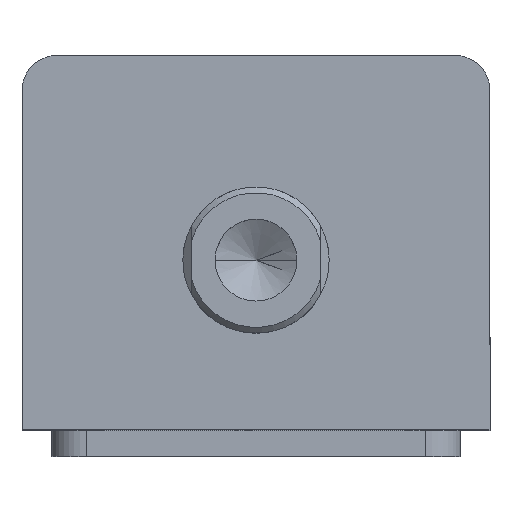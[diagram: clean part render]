
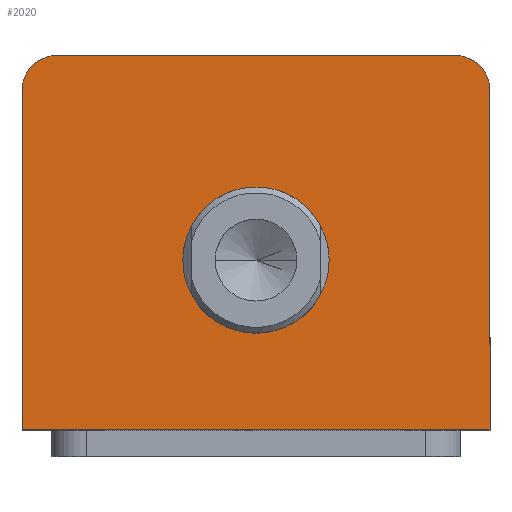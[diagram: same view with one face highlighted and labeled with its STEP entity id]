
A CAD part, top view. The second image highlights one B-rep face of the part: STEP entity #2020.
In plain terms, the highlighted planar face has unit normal (0, 0, 1).
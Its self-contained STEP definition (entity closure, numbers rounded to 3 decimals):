
#249 = DIRECTION ( 'NONE',  ( 0., -1., 0. ) ) ;
#261 = CARTESIAN_POINT ( 'NONE',  ( -40., 32., 100. ) ) ;
#295 = DIRECTION ( 'NONE',  ( 1., 0., 0. ) ) ;
#323 = CARTESIAN_POINT ( 'NONE',  ( -40., -32., 100. ) ) ;
#410 = DIRECTION ( 'NONE',  ( 1., 0., 0. ) ) ;
#411 = DIRECTION ( 'NONE',  ( 0., 0., 1. ) ) ;
#412 = CARTESIAN_POINT ( 'NONE',  ( 0., -3., 100. ) ) ;
#441 = DIRECTION ( 'NONE',  ( 0., 1., 0. ) ) ;
#442 = CARTESIAN_POINT ( 'NONE',  ( 40., 32., 100. ) ) ;
#601 = ORIENTED_EDGE ( 'NONE', *, *, #1379, .T. ) ;
#606 = ORIENTED_EDGE ( 'NONE', *, *, #1632, .T. ) ;
#607 = ORIENTED_EDGE ( 'NONE', *, *, #1387, .T. ) ;
#608 = ORIENTED_EDGE ( 'NONE', *, *, #1582, .F. ) ;
#609 = ORIENTED_EDGE ( 'NONE', *, *, #1522, .F. ) ;
#610 = ORIENTED_EDGE ( 'NONE', *, *, #1560, .T. ) ;
#611 = ORIENTED_EDGE ( 'NONE', *, *, #1550, .T. ) ;
#612 = ORIENTED_EDGE ( 'NONE', *, *, #1572, .T. ) ;
#788 = VERTEX_POINT ( 'NONE', #2928 ) ;
#791 = VERTEX_POINT ( 'NONE', #3002 ) ;
#793 = VERTEX_POINT ( 'NONE', #2677 ) ;
#796 = VERTEX_POINT ( 'NONE', #2926 ) ;
#799 = VERTEX_POINT ( 'NONE', #2998 ) ;
#824 = VERTEX_POINT ( 'NONE', #2955 ) ;
#843 = VERTEX_POINT ( 'NONE', #2922 ) ;
#846 = VERTEX_POINT ( 'NONE', #2919 ) ;
#954 = EDGE_LOOP ( 'NONE', ( #608, #609 ) ) ;
#1011 = EDGE_LOOP ( 'NONE', ( #606, #607, #610, #611, #612, #601 ) ) ;
#1127 = FACE_BOUND ( 'NONE', #954, .T. ) ;
#1131 = FACE_OUTER_BOUND ( 'NONE', #1011, .T. ) ;
#1379 = EDGE_CURVE ( 'NONE', #824, #788, #2203, .T. ) ;
#1387 = EDGE_CURVE ( 'NONE', #791, #793, #2207, .T. ) ;
#1412 = AXIS2_PLACEMENT_3D ( 'NONE', #2799, #2798, #2822 ) ;
#1522 = EDGE_CURVE ( 'NONE', #846, #843, #2375, .T. ) ;
#1550 = EDGE_CURVE ( 'NONE', #799, #796, #2413, .T. ) ;
#1560 = EDGE_CURVE ( 'NONE', #793, #799, #2425, .T. ) ;
#1572 = EDGE_CURVE ( 'NONE', #796, #824, #2461, .T. ) ;
#1582 = EDGE_CURVE ( 'NONE', #843, #846, #2480, .T. ) ;
#1632 = EDGE_CURVE ( 'NONE', #788, #791, #2559, .T. ) ;
#1780 = CARTESIAN_POINT ( 'NONE',  ( 0., 0., 100. ) ) ;
#1781 = DIRECTION ( 'NONE',  ( 1., 0., 0. ) ) ;
#1782 = DIRECTION ( 'NONE',  ( 0., 0., 1. ) ) ;
#1791 = PLANE ( 'NONE',  #2649 ) ;
#2020 = ADVANCED_FACE ( 'NONE', ( #1127, #1131 ), #1791, .T. ) ;
#2203 = CIRCLE ( 'NONE', #1412, 6. ) ;
#2207 = CIRCLE ( 'NONE', #3009, 6. ) ;
#2375 = CIRCLE ( 'NONE', #3561, 12.5 ) ;
#2413 = LINE ( 'NONE', #323, #2420 ) ;
#2420 = VECTOR ( 'NONE', #295, 1000. ) ;
#2425 = LINE ( 'NONE', #261, #2440 ) ;
#2440 = VECTOR ( 'NONE', #249, 1000. ) ;
#2461 = LINE ( 'NONE', #442, #2464 ) ;
#2464 = VECTOR ( 'NONE', #441, 1000. ) ;
#2480 = CIRCLE ( 'NONE', #3049, 12.5 ) ;
#2559 = LINE ( 'NONE', #3245, #2562 ) ;
#2562 = VECTOR ( 'NONE', #3273, 1000. ) ;
#2649 = AXIS2_PLACEMENT_3D ( 'NONE', #1780, #1782, #1781 ) ;
#2677 = CARTESIAN_POINT ( 'NONE',  ( -40., 26., 100. ) ) ;
#2738 = DIRECTION ( 'NONE',  ( 1., 0., 0. ) ) ;
#2739 = CARTESIAN_POINT ( 'NONE',  ( -34., 26., 100. ) ) ;
#2740 = DIRECTION ( 'NONE',  ( 0., 0., 1. ) ) ;
#2798 = DIRECTION ( 'NONE',  ( 0., 0., 1. ) ) ;
#2799 = CARTESIAN_POINT ( 'NONE',  ( 34., 26., 100. ) ) ;
#2822 = DIRECTION ( 'NONE',  ( 1., 0., 0. ) ) ;
#2919 = CARTESIAN_POINT ( 'NONE',  ( -12.5, -3., 100. ) ) ;
#2922 = CARTESIAN_POINT ( 'NONE',  ( 12.5, -3., 100. ) ) ;
#2926 = CARTESIAN_POINT ( 'NONE',  ( 40., -32., 100. ) ) ;
#2928 = CARTESIAN_POINT ( 'NONE',  ( 34., 32., 100. ) ) ;
#2955 = CARTESIAN_POINT ( 'NONE',  ( 40., 26., 100. ) ) ;
#2998 = CARTESIAN_POINT ( 'NONE',  ( -40., -32., 100. ) ) ;
#3002 = CARTESIAN_POINT ( 'NONE',  ( -34., 32., 100. ) ) ;
#3009 = AXIS2_PLACEMENT_3D ( 'NONE', #2739, #2740, #2738 ) ;
#3049 = AXIS2_PLACEMENT_3D ( 'NONE', #412, #411, #410 ) ;
#3245 = CARTESIAN_POINT ( 'NONE',  ( -40., 32., 100. ) ) ;
#3273 = DIRECTION ( 'NONE',  ( -1., 0., 0. ) ) ;
#3343 = DIRECTION ( 'NONE',  ( 1., 0., 0. ) ) ;
#3344 = DIRECTION ( 'NONE',  ( 0., 0., 1. ) ) ;
#3345 = CARTESIAN_POINT ( 'NONE',  ( 0., -3., 100. ) ) ;
#3561 = AXIS2_PLACEMENT_3D ( 'NONE', #3345, #3344, #3343 ) ;
